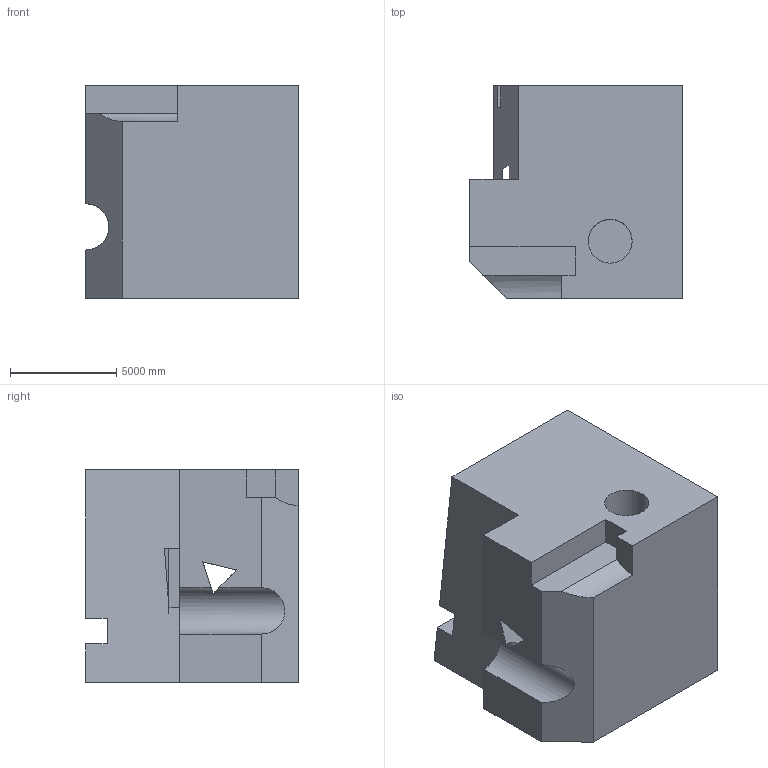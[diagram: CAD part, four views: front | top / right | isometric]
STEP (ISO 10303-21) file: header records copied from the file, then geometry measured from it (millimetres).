
FILE_DESCRIPTION (( 'STEP AP203' ), '1' );
FILE_NAME ('1910.STEP', '2022-08-23T09:22:15', ( 'user' ), ( '' ), 'SwSTEP 2.0', 'SolidWorks 2021', '' );
FILE_SCHEMA (( 'CONFIG_CONTROL_DESIGN' ));
Length unit declared in the file: centimetre
Products named in the file (1): 1910
Bounding box: 10000 x 10000 x 10000 mm (x, y, z)
Volume: 822187566376.5 mm3; surface area: 722928987.8 mm2
Topology: 1 solids, 1 shells, 41 faces, 119 edges, 79 vertices
Faces by surface type: plane 32, cylinder 9
Entity records: 1430 total; most frequent: CARTESIAN_POINT 258, ORIENTED_EDGE 238, DIRECTION 213, EDGE_CURVE 119, LINE 97, VECTOR 97, VERTEX_POINT 79, AXIS2_PLACEMENT_3D 58
